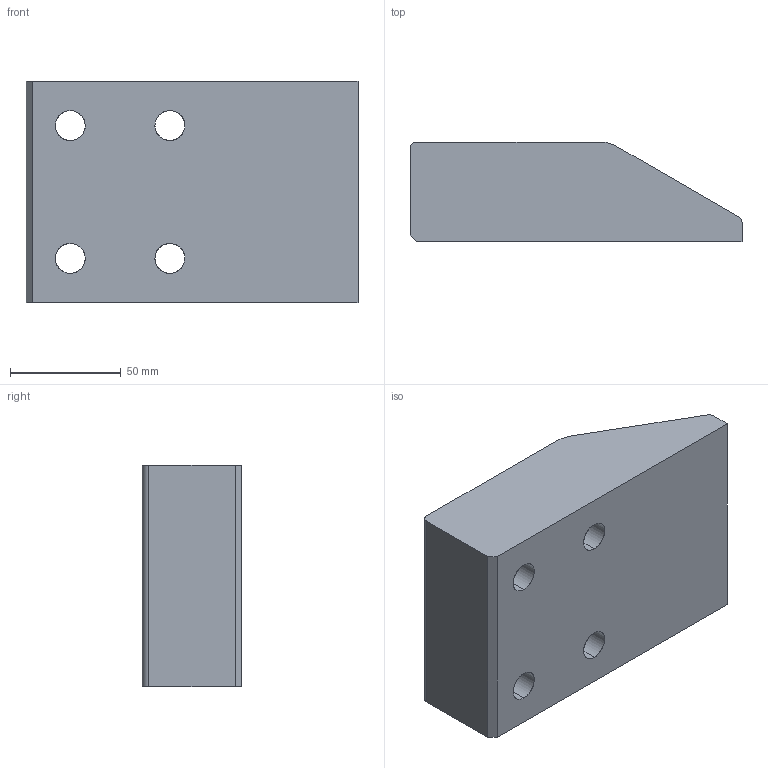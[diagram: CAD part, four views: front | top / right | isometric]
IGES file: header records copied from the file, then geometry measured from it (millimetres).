
Start section: START RECORD GO HERE.
Global section: file name: A935-10015045.igs; native system: DASSAULT SYSTEMES CATIA V5 R20 - www.3ds.com; preprocessor: CATIA Version 5 Release 20 ; author: Utente; organization: NB04-ASUS; date: 20200417.104144; units: millimetre
Bounding box: 150 x 45 x 100 mm (x, y, z)
Surface area: 56145.7 mm2 (no closed solid volume)
Topology: 0 solids, 0 shells, 39 faces, 182 edges, 182 vertices
Faces by surface type: revolution 27, extrusion 12
